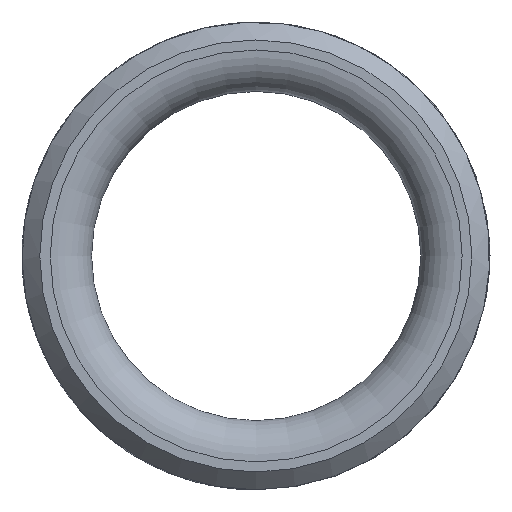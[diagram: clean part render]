
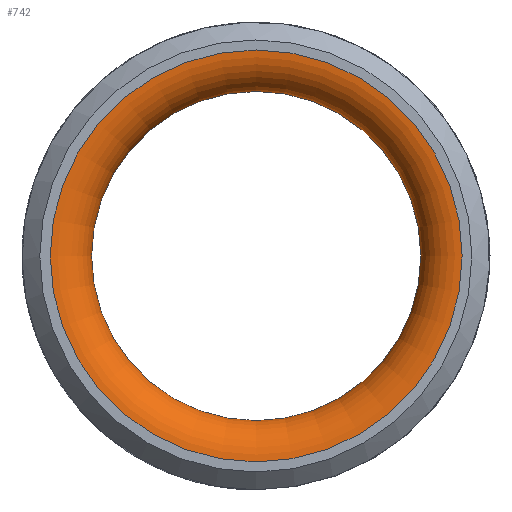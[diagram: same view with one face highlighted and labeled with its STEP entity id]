
A CAD part, top view. The second image highlights one B-rep face of the part: STEP entity #742.
In plain terms, the highlighted toroidal (fillet/blend) face has major radius 42.938 mm and minor radius 8.75 mm.
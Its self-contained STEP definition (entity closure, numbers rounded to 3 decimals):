
#21=TOROIDAL_SURFACE('',#810,42.938,8.75);
#66=FACE_OUTER_BOUND('',#106,.T.);
#106=EDGE_LOOP('',(#575,#576,#577,#578));
#156=CIRCLE('',#811,34.32);
#157=CIRCLE('',#812,8.75);
#158=CIRCLE('',#813,42.938);
#363=VERTEX_POINT('',#1212);
#364=VERTEX_POINT('',#1214);
#447=EDGE_CURVE('',#363,#363,#156,.T.);
#448=EDGE_CURVE('',#363,#364,#157,.T.);
#449=EDGE_CURVE('',#364,#364,#158,.T.);
#575=ORIENTED_EDGE('',*,*,#447,.F.);
#576=ORIENTED_EDGE('',*,*,#448,.T.);
#577=ORIENTED_EDGE('',*,*,#449,.T.);
#578=ORIENTED_EDGE('',*,*,#448,.F.);
#742=ADVANCED_FACE('',(#66),#21,.T.);
#810=AXIS2_PLACEMENT_3D('',#1211,#951,#952);
#811=AXIS2_PLACEMENT_3D('',#1213,#953,#954);
#812=AXIS2_PLACEMENT_3D('',#1215,#955,#956);
#813=AXIS2_PLACEMENT_3D('',#1216,#957,#958);
#951=DIRECTION('center_axis',(0.,0.,
1.));
#952=DIRECTION('ref_axis',(-1.,0.,0.));
#953=DIRECTION('center_axis',(0.,0.,
1.));
#954=DIRECTION('ref_axis',(1.,0.,0.));
#955=DIRECTION('center_axis',(0.,1.,0.));
#956=DIRECTION('ref_axis',(1.,0.,0.));
#957=DIRECTION('center_axis',(0.,0.,
1.));
#958=DIRECTION('ref_axis',(-1.,0.,0.));
#1211=CARTESIAN_POINT('Origin',(7.641,9.509,-7.424));
#1212=CARTESIAN_POINT('',(41.961,9.509,-5.909));
#1213=CARTESIAN_POINT('Origin',(7.641,9.509,-5.909));
#1214=CARTESIAN_POINT('',(50.579,9.509,1.326));
#1215=CARTESIAN_POINT('Origin',(50.579,9.509,-7.424));
#1216=CARTESIAN_POINT('Origin',(7.641,9.509,1.326));
